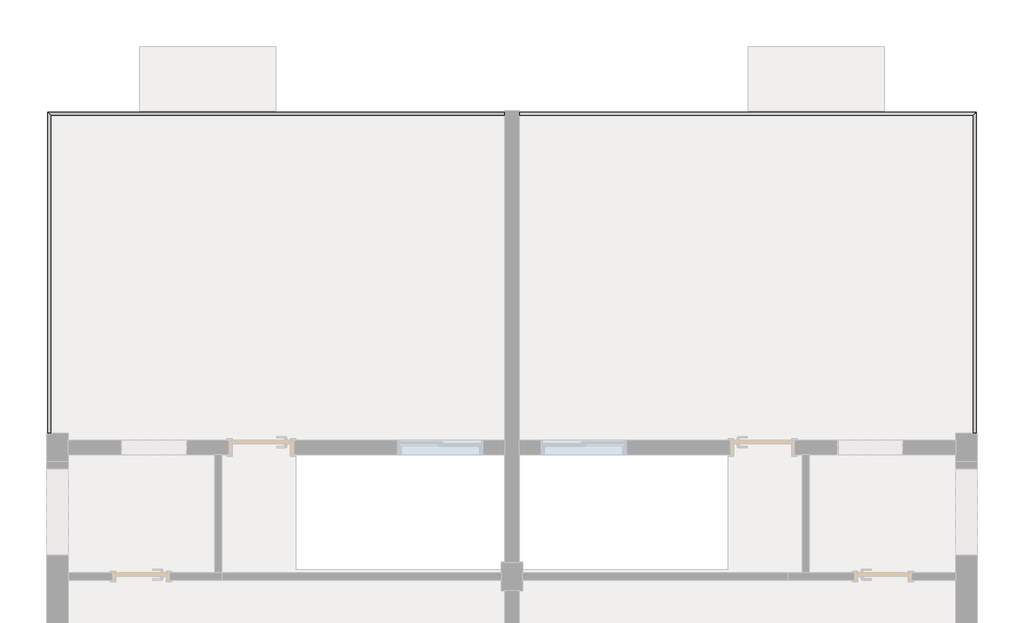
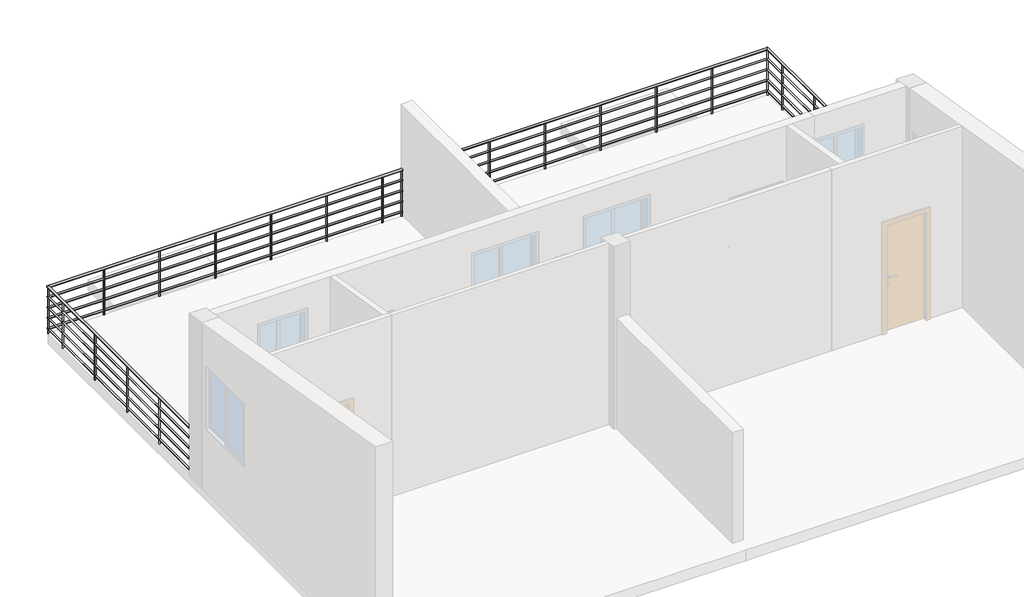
# One storey, part 2 of 2: 2 railings.
"""IFC4 building model written with IfcOpenShell, lengths in millimetres."""

from ifc_helpers import new_model, si_unit, point, frame, frame_2d, origin, place, context, project, spatial, circle_curve, ellipse_curve, trimmed, segment, composite_curve, outline, extrude, element, save
from ifc_brep_helpers import plane_surface, cylinder_surface, advanced_brep

model = new_model("IFC4")

# Units and contexts
model_context = context("Model", 3, world=origin())
ifc_project = project(units=[si_unit("LENGTHUNIT", "METRE", prefix="MILLI")], contexts=[model_context])

# Site, building, storey
site = spatial("IfcSite", under=ifc_project)
building = spatial("IfcBuilding", under=site)
storey = spatial("IfcBuildingStorey", under=building, Name="标高 3", Elevation=6000.0)

# Railings
placement = place(None, origin())
element("IfcRailing", 1, ObjectType="900mm 圆管", at=placement, inside=storey, context=model_context, shape_type="SolidModel", body=[
    advanced_brep(
    [(-8279.5311174, 830.4705333, 6880.0), (-8319.5311174, 830.4705333, 6880.0), (-8279.5311174, 5270.4705333, 6880.0), (-8319.5311174, 5310.4705333, 6880.0), (-1939.5311174, 5270.4705333, 6880.0), (-1939.5311174, 5310.4705333, 6880.0)],
    [
        (0, 1, circle_curve(frame((-8299.5311174, 830.4705333, 6880.0), z_axis=(0.0, -1.0, 0.0), x_axis=(-1.0, 0.0, 0.0)), 20.0)),
        (1, 0, circle_curve(frame((-8299.5311174, 830.4705333, 6880.0), z_axis=(0.0, -1.0, 0.0), x_axis=(-1.0, 0.0, 0.0)), 20.0)),
        (0, 2),
        (2, 3, ellipse_curve(frame((-8299.5311174, 5290.4705333, 6880.0), z_axis=(-0.7071067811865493, -0.7071067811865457, 0.0), x_axis=(0.7071067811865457, -0.7071067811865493, 0.0)), 28.2842712, 20.0)),
        (3, 1),
        (3, 2, ellipse_curve(frame((-8299.5311174, 5290.4705333, 6880.0), z_axis=(-0.7071067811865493, -0.7071067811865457, 0.0), x_axis=(0.7071067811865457, -0.7071067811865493, 0.0)), 28.2842712, 20.0)),
        (4, 5, circle_curve(frame((-1939.5311174, 5290.4705333, 6880.0), z_axis=(1.0, 0.0, 0.0), x_axis=(0.0, 1.0, 0.0)), 20.0)),
        (5, 4, circle_curve(frame((-1939.5311174, 5290.4705333, 6880.0), z_axis=(1.0, 0.0, 0.0), x_axis=(0.0, 1.0, 0.0)), 20.0)),
        (2, 4),
        (5, 3),
    ],
    [
        plane_surface(frame((-8299.5311174, 830.4705333, 6900.0), z_axis=(0.0, -1.0, 0.0), x_axis=(0.0, 0.0, 1.0))),
        cylinder_surface(frame((-8299.5311174, 830.4705333, 6880.0), z_axis=(0.0, -1.0, 0.0), x_axis=(-1.0, 0.0, 0.0)), 20.0),
        plane_surface(frame((-1939.5311174, 5290.4705333, 6900.0), z_axis=(1.0, 0.0, 0.0), x_axis=(0.0, 1.0, 0.0))),
        cylinder_surface(frame((-8299.5311174, 5290.4705333, 6880.0), z_axis=(-1.0, 0.0, 0.0), x_axis=(0.0, 1.0, 0.0)), 20.0),
    ],
    [
        (0, [[1, 2]]),
        (1, [[-1, 3, 4, 5]]),
        (1, [[-2, -5, 6, -3]]),
        (2, [[7, 8]]),
        (3, [[-4, 9, -8, 10]]),
        (3, [[-6, -10, -7, -9]]),
    ],
),
    advanced_brep(
    [(-8314.5311174, 830.4705333, 6685.0), (-8284.5311174, 830.4705333, 6685.0), (-8314.5311174, 5305.4705333, 6685.0), (-8284.5311174, 5275.4705333, 6685.0), (-1939.5311174, 5305.4705333, 6685.0), (-1939.5311174, 5275.4705333, 6685.0)],
    [
        (0, 1, circle_curve(frame((-8299.5311174, 830.4705333, 6685.0), z_axis=(0.0, -1.0, 0.0), x_axis=(1.0, 0.0, 0.0)), 15.0)),
        (1, 0, circle_curve(frame((-8299.5311174, 830.4705333, 6685.0), z_axis=(0.0, -1.0, 0.0), x_axis=(1.0, 0.0, 0.0)), 15.0)),
        (0, 2),
        (2, 3, ellipse_curve(frame((-8299.5311174, 5290.4705333, 6685.0), z_axis=(-0.7071067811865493, -0.7071067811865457, 0.0), x_axis=(0.7071067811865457, -0.7071067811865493, 0.0)), 21.2132034, 15.0)),
        (3, 1),
        (3, 2, ellipse_curve(frame((-8299.5311174, 5290.4705333, 6685.0), z_axis=(-0.7071067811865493, -0.7071067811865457, 0.0), x_axis=(0.7071067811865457, -0.7071067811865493, 0.0)), 21.2132034, 15.0)),
        (4, 5, circle_curve(frame((-1939.5311174, 5290.4705333, 6685.0), z_axis=(1.0, 0.0, 0.0), x_axis=(0.0, -1.0, 0.0)), 15.0)),
        (5, 4, circle_curve(frame((-1939.5311174, 5290.4705333, 6685.0), z_axis=(1.0, 0.0, 0.0), x_axis=(0.0, -1.0, 0.0)), 15.0)),
        (2, 4),
        (5, 3),
    ],
    [
        plane_surface(frame((-8299.5311174, 830.4705333, 6700.0), z_axis=(0.0, -1.0, 0.0), x_axis=(0.0, 0.0, 1.0))),
        cylinder_surface(frame((-8299.5311174, 830.4705333, 6685.0), z_axis=(0.0, -1.0, 0.0), x_axis=(1.0, 0.0, 0.0)), 15.0),
        plane_surface(frame((-1939.5311174, 5290.4705333, 6700.0), z_axis=(1.0, 0.0, 0.0), x_axis=(0.0, 1.0, 0.0))),
        cylinder_surface(frame((-8299.5311174, 5290.4705333, 6685.0), z_axis=(-1.0, 0.0, 0.0), x_axis=(0.0, -1.0, 0.0)), 15.0),
    ],
    [
        (0, [[1, 2]]),
        (1, [[-1, 3, 4, 5]]),
        (1, [[-2, -5, 6, -3]]),
        (2, [[7, 8]]),
        (3, [[-4, 9, -8, 10]]),
        (3, [[-6, -10, -7, -9]]),
    ],
),
    advanced_brep(
    [(-8314.5311174, 830.4705333, 6485.0), (-8284.5311174, 830.4705333, 6485.0), (-8314.5311174, 5305.4705333, 6485.0), (-8284.5311174, 5275.4705333, 6485.0), (-1939.5311174, 5305.4705333, 6485.0), (-1939.5311174, 5275.4705333, 6485.0)],
    [
        (0, 1, circle_curve(frame((-8299.5311174, 830.4705333, 6485.0), z_axis=(0.0, -1.0, 0.0), x_axis=(1.0, 0.0, 0.0)), 15.0)),
        (1, 0, circle_curve(frame((-8299.5311174, 830.4705333, 6485.0), z_axis=(0.0, -1.0, 0.0), x_axis=(1.0, 0.0, 0.0)), 15.0)),
        (0, 2),
        (2, 3, ellipse_curve(frame((-8299.5311174, 5290.4705333, 6485.0), z_axis=(-0.7071067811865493, -0.7071067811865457, 0.0), x_axis=(0.7071067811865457, -0.7071067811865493, 0.0)), 21.2132034, 15.0)),
        (3, 1),
        (3, 2, ellipse_curve(frame((-8299.5311174, 5290.4705333, 6485.0), z_axis=(-0.7071067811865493, -0.7071067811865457, 0.0), x_axis=(0.7071067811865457, -0.7071067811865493, 0.0)), 21.2132034, 15.0)),
        (4, 5, circle_curve(frame((-1939.5311174, 5290.4705333, 6485.0), z_axis=(1.0, 0.0, 0.0), x_axis=(0.0, -1.0, 0.0)), 15.0)),
        (5, 4, circle_curve(frame((-1939.5311174, 5290.4705333, 6485.0), z_axis=(1.0, 0.0, 0.0), x_axis=(0.0, -1.0, 0.0)), 15.0)),
        (2, 4),
        (5, 3),
    ],
    [
        plane_surface(frame((-8299.5311174, 830.4705333, 6500.0), z_axis=(0.0, -1.0, 0.0), x_axis=(0.0, 0.0, 1.0))),
        cylinder_surface(frame((-8299.5311174, 830.4705333, 6485.0), z_axis=(0.0, -1.0, 0.0), x_axis=(1.0, 0.0, 0.0)), 15.0),
        plane_surface(frame((-1939.5311174, 5290.4705333, 6500.0), z_axis=(1.0, 0.0, 0.0), x_axis=(0.0, 1.0, 0.0))),
        cylinder_surface(frame((-8299.5311174, 5290.4705333, 6485.0), z_axis=(-1.0, 0.0, 0.0), x_axis=(0.0, -1.0, 0.0)), 15.0),
    ],
    [
        (0, [[1, 2]]),
        (1, [[-1, 3, 4, 5]]),
        (1, [[-2, -5, 6, -3]]),
        (2, [[7, 8]]),
        (3, [[-4, 9, -8, 10]]),
        (3, [[-6, -10, -7, -9]]),
    ],
),
    advanced_brep(
    [(-8314.5311174, 830.4705333, 6285.0), (-8284.5311174, 830.4705333, 6285.0), (-8314.5311174, 5305.4705333, 6285.0), (-8284.5311174, 5275.4705333, 6285.0), (-1939.5311174, 5305.4705333, 6285.0), (-1939.5311174, 5275.4705333, 6285.0)],
    [
        (0, 1, circle_curve(frame((-8299.5311174, 830.4705333, 6285.0), z_axis=(0.0, -1.0, 0.0), x_axis=(1.0, 0.0, 0.0)), 15.0)),
        (1, 0, circle_curve(frame((-8299.5311174, 830.4705333, 6285.0), z_axis=(0.0, -1.0, 0.0), x_axis=(1.0, 0.0, 0.0)), 15.0)),
        (0, 2),
        (2, 3, ellipse_curve(frame((-8299.5311174, 5290.4705333, 6285.0), z_axis=(-0.7071067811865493, -0.7071067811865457, 0.0), x_axis=(0.7071067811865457, -0.7071067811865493, 0.0)), 21.2132034, 15.0)),
        (3, 1),
        (3, 2, ellipse_curve(frame((-8299.5311174, 5290.4705333, 6285.0), z_axis=(-0.7071067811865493, -0.7071067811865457, 0.0), x_axis=(0.7071067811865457, -0.7071067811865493, 0.0)), 21.2132034, 15.0)),
        (4, 5, circle_curve(frame((-1939.5311174, 5290.4705333, 6285.0), z_axis=(1.0, 0.0, 0.0), x_axis=(0.0, -1.0, 0.0)), 15.0)),
        (5, 4, circle_curve(frame((-1939.5311174, 5290.4705333, 6285.0), z_axis=(1.0, 0.0, 0.0), x_axis=(0.0, -1.0, 0.0)), 15.0)),
        (2, 4),
        (5, 3),
    ],
    [
        plane_surface(frame((-8299.5311174, 830.4705333, 6300.0), z_axis=(0.0, -1.0, 0.0), x_axis=(0.0, 0.0, 1.0))),
        cylinder_surface(frame((-8299.5311174, 830.4705333, 6285.0), z_axis=(0.0, -1.0, 0.0), x_axis=(1.0, 0.0, 0.0)), 15.0),
        plane_surface(frame((-1939.5311174, 5290.4705333, 6300.0), z_axis=(1.0, 0.0, 0.0), x_axis=(0.0, 1.0, 0.0))),
        cylinder_surface(frame((-8299.5311174, 5290.4705333, 6285.0), z_axis=(-1.0, 0.0, 0.0), x_axis=(0.0, -1.0, 0.0)), 15.0),
    ],
    [
        (0, [[1, 2]]),
        (1, [[-1, 3, 4, 5]]),
        (1, [[-2, -5, 6, -3]]),
        (2, [[7, 8]]),
        (3, [[-4, 9, -8, 10]]),
        (3, [[-6, -10, -7, -9]]),
    ],
),
    advanced_brep(
    [(-8314.5311174, 830.4705333, 6085.0), (-8284.5311174, 830.4705333, 6085.0), (-8314.5311174, 5305.4705333, 6085.0), (-8284.5311174, 5275.4705333, 6085.0), (-1939.5311174, 5305.4705333, 6085.0), (-1939.5311174, 5275.4705333, 6085.0)],
    [
        (0, 1, circle_curve(frame((-8299.5311174, 830.4705333, 6085.0), z_axis=(0.0, -1.0, 0.0), x_axis=(1.0, 0.0, 0.0)), 15.0)),
        (1, 0, circle_curve(frame((-8299.5311174, 830.4705333, 6085.0), z_axis=(0.0, -1.0, 0.0), x_axis=(1.0, 0.0, 0.0)), 15.0)),
        (0, 2),
        (2, 3, ellipse_curve(frame((-8299.5311174, 5290.4705333, 6085.0), z_axis=(-0.7071067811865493, -0.7071067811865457, 0.0), x_axis=(0.7071067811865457, -0.7071067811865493, 0.0)), 21.2132034, 15.0)),
        (3, 1),
        (3, 2, ellipse_curve(frame((-8299.5311174, 5290.4705333, 6085.0), z_axis=(-0.7071067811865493, -0.7071067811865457, 0.0), x_axis=(0.7071067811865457, -0.7071067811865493, 0.0)), 21.2132034, 15.0)),
        (4, 5, circle_curve(frame((-1939.5311174, 5290.4705333, 6085.0), z_axis=(1.0, 0.0, 0.0), x_axis=(0.0, -1.0, 0.0)), 15.0)),
        (5, 4, circle_curve(frame((-1939.5311174, 5290.4705333, 6085.0), z_axis=(1.0, 0.0, 0.0), x_axis=(0.0, -1.0, 0.0)), 15.0)),
        (2, 4),
        (5, 3),
    ],
    [
        plane_surface(frame((-8299.5311174, 830.4705333, 6100.0), z_axis=(0.0, -1.0, 0.0), x_axis=(0.0, 0.0, 1.0))),
        cylinder_surface(frame((-8299.5311174, 830.4705333, 6085.0), z_axis=(0.0, -1.0, 0.0), x_axis=(1.0, 0.0, 0.0)), 15.0),
        plane_surface(frame((-1939.5311174, 5290.4705333, 6100.0), z_axis=(1.0, 0.0, 0.0), x_axis=(0.0, 1.0, 0.0))),
        cylinder_surface(frame((-8299.5311174, 5290.4705333, 6085.0), z_axis=(-1.0, 0.0, 0.0), x_axis=(0.0, -1.0, 0.0)), 15.0),
    ],
    [
        (0, [[1, 2]]),
        (1, [[-1, 3, 4, 5]]),
        (1, [[-2, -5, 6, -3]]),
        (2, [[7, 8]]),
        (3, [[-4, 9, -8, 10]]),
        (3, [[-6, -10, -7, -9]]),
    ],
),
    extrude(outline(composite_curve([segment(trimmed(circle_curve(frame_2d((-2299.5311174, 5290.4705333)), 12.5), [point((-2299.5311174, 5302.9705333))], [point((-2299.5311174, 5277.9705333))], False, "CARTESIAN"), True, "CONTINUOUS"), segment(trimmed(circle_curve(frame_2d((-2299.5311174, 5290.4705333)), 12.5), [point((-2299.5311174, 5277.9705333))], [point((-2299.5311174, 5302.9705333))], False, "CARTESIAN"), True, "CONTINUOUS")], self_intersect=False)), frame((0.0, 0.0, 6000.0), z_axis=(0.0, 0.0, 1.0), x_axis=(1.0, 0.0, 0.0)), (0.0, 0.0, 1.0), 860.0),
    extrude(outline(composite_curve([segment(trimmed(circle_curve(frame_2d((-3299.5311174, 5290.4705333)), 12.5), [point((-3299.5311174, 5302.9705333))], [point((-3299.5311174, 5277.9705333))], False, "CARTESIAN"), True, "CONTINUOUS"), segment(trimmed(circle_curve(frame_2d((-3299.5311174, 5290.4705333)), 12.5), [point((-3299.5311174, 5277.9705333))], [point((-3299.5311174, 5302.9705333))], False, "CARTESIAN"), True, "CONTINUOUS")], self_intersect=False)), frame((0.0, 0.0, 6000.0), z_axis=(0.0, 0.0, 1.0), x_axis=(1.0, 0.0, 0.0)), (0.0, 0.0, 1.0), 860.0),
    extrude(outline(composite_curve([segment(trimmed(circle_curve(frame_2d((-4299.5311174, 5290.4705333)), 12.5), [point((-4299.5311174, 5302.9705333))], [point((-4299.5311174, 5277.9705333))], False, "CARTESIAN"), True, "CONTINUOUS"), segment(trimmed(circle_curve(frame_2d((-4299.5311174, 5290.4705333)), 12.5), [point((-4299.5311174, 5277.9705333))], [point((-4299.5311174, 5302.9705333))], False, "CARTESIAN"), True, "CONTINUOUS")], self_intersect=False)), frame((0.0, 0.0, 6000.0), z_axis=(0.0, 0.0, 1.0), x_axis=(1.0, 0.0, 0.0)), (0.0, 0.0, 1.0), 860.0),
    extrude(outline(composite_curve([segment(trimmed(circle_curve(frame_2d((-5299.5311174, 5290.4705333)), 12.5), [point((-5299.5311174, 5302.9705333))], [point((-5299.5311174, 5277.9705333))], False, "CARTESIAN"), True, "CONTINUOUS"), segment(trimmed(circle_curve(frame_2d((-5299.5311174, 5290.4705333)), 12.5), [point((-5299.5311174, 5277.9705333))], [point((-5299.5311174, 5302.9705333))], False, "CARTESIAN"), True, "CONTINUOUS")], self_intersect=False)), frame((0.0, 0.0, 6000.0), z_axis=(0.0, 0.0, 1.0), x_axis=(1.0, 0.0, 0.0)), (0.0, 0.0, 1.0), 860.0),
    extrude(outline(composite_curve([segment(trimmed(circle_curve(frame_2d((-6299.5311174, 5290.4705333)), 12.5), [point((-6299.5311174, 5302.9705333))], [point((-6299.5311174, 5277.9705333))], False, "CARTESIAN"), True, "CONTINUOUS"), segment(trimmed(circle_curve(frame_2d((-6299.5311174, 5290.4705333)), 12.5), [point((-6299.5311174, 5277.9705333))], [point((-6299.5311174, 5302.9705333))], False, "CARTESIAN"), True, "CONTINUOUS")], self_intersect=False)), frame((0.0, 0.0, 6000.0), z_axis=(0.0, 0.0, 1.0), x_axis=(1.0, 0.0, 0.0)), (0.0, 0.0, 1.0), 860.0),
    extrude(outline(composite_curve([segment(trimmed(circle_curve(frame_2d((-7299.5311174, 5290.4705333)), 12.5), [point((-7299.5311174, 5302.9705333))], [point((-7299.5311174, 5277.9705333))], False, "CARTESIAN"), True, "CONTINUOUS"), segment(trimmed(circle_curve(frame_2d((-7299.5311174, 5290.4705333)), 12.5), [point((-7299.5311174, 5277.9705333))], [point((-7299.5311174, 5302.9705333))], False, "CARTESIAN"), True, "CONTINUOUS")], self_intersect=False)), frame((0.0, 0.0, 6000.0), z_axis=(0.0, 0.0, 1.0), x_axis=(1.0, 0.0, 0.0)), (0.0, 0.0, 1.0), 860.0),
    extrude(outline(composite_curve([segment(trimmed(circle_curve(frame_2d((-8299.5311174, 4830.4705333)), 12.5), [point((-8312.0311174, 4830.4705333))], [point((-8287.0311174, 4830.4705333))], False, "CARTESIAN"), True, "CONTINUOUS"), segment(trimmed(circle_curve(frame_2d((-8299.5311174, 4830.4705333)), 12.5), [point((-8287.0311174, 4830.4705333))], [point((-8312.0311174, 4830.4705333))], False, "CARTESIAN"), True, "CONTINUOUS")], self_intersect=False)), frame((0.0, 0.0, 6000.0), z_axis=(0.0, 0.0, 1.0), x_axis=(1.0, 0.0, 0.0)), (0.0, 0.0, 1.0), 860.0),
    extrude(outline(composite_curve([segment(trimmed(circle_curve(frame_2d((-8299.5311174, 3830.4705333)), 12.5), [point((-8312.0311174, 3830.4705333))], [point((-8287.0311174, 3830.4705333))], False, "CARTESIAN"), True, "CONTINUOUS"), segment(trimmed(circle_curve(frame_2d((-8299.5311174, 3830.4705333)), 12.5), [point((-8287.0311174, 3830.4705333))], [point((-8312.0311174, 3830.4705333))], False, "CARTESIAN"), True, "CONTINUOUS")], self_intersect=False)), frame((0.0, 0.0, 6000.0), z_axis=(0.0, 0.0, 1.0), x_axis=(1.0, 0.0, 0.0)), (0.0, 0.0, 1.0), 860.0),
    extrude(outline(composite_curve([segment(trimmed(circle_curve(frame_2d((-8299.5311174, 2830.4705333)), 12.5), [point((-8312.0311174, 2830.4705333))], [point((-8287.0311174, 2830.4705333))], False, "CARTESIAN"), True, "CONTINUOUS"), segment(trimmed(circle_curve(frame_2d((-8299.5311174, 2830.4705333)), 12.5), [point((-8287.0311174, 2830.4705333))], [point((-8312.0311174, 2830.4705333))], False, "CARTESIAN"), True, "CONTINUOUS")], self_intersect=False)), frame((0.0, 0.0, 6000.0), z_axis=(0.0, 0.0, 1.0), x_axis=(1.0, 0.0, 0.0)), (0.0, 0.0, 1.0), 860.0),
    extrude(outline(composite_curve([segment(trimmed(circle_curve(frame_2d((-8299.5311174, 1830.4705333)), 12.5), [point((-8312.0311174, 1830.4705333))], [point((-8287.0311174, 1830.4705333))], False, "CARTESIAN"), True, "CONTINUOUS"), segment(trimmed(circle_curve(frame_2d((-8299.5311174, 1830.4705333)), 12.5), [point((-8287.0311174, 1830.4705333))], [point((-8312.0311174, 1830.4705333))], False, "CARTESIAN"), True, "CONTINUOUS")], self_intersect=False)), frame((0.0, 0.0, 6000.0), z_axis=(0.0, 0.0, 1.0), x_axis=(1.0, 0.0, 0.0)), (0.0, 0.0, 1.0), 860.0),
    extrude(outline(composite_curve([segment(trimmed(circle_curve(frame_2d((-8299.5311174, 5290.4705333)), 12.5), [point((-8312.0311174, 5290.4705333))], [point((-8287.0311174, 5290.4705333))], False, "CARTESIAN"), True, "CONTINUOUS"), segment(trimmed(circle_curve(frame_2d((-8299.5311174, 5290.4705333)), 12.5), [point((-8287.0311174, 5290.4705333))], [point((-8312.0311174, 5290.4705333))], False, "CARTESIAN"), True, "CONTINUOUS")], self_intersect=False)), frame((0.0, 0.0, 6000.0), z_axis=(0.0, 0.0, 1.0), x_axis=(1.0, 0.0, 0.0)), (0.0, 0.0, 1.0), 860.0),
    extrude(outline(composite_curve([segment(trimmed(circle_curve(frame_2d((-1952.0311174, 5290.4705333)), 12.5), [point((-1952.0311174, 5302.9705333))], [point((-1952.0311174, 5277.9705333))], False, "CARTESIAN"), True, "CONTINUOUS"), segment(trimmed(circle_curve(frame_2d((-1952.0311174, 5290.4705333)), 12.5), [point((-1952.0311174, 5277.9705333))], [point((-1952.0311174, 5302.9705333))], False, "CARTESIAN"), True, "CONTINUOUS")], self_intersect=False)), frame((0.0, 0.0, 6000.0), z_axis=(0.0, 0.0, 1.0), x_axis=(1.0, 0.0, 0.0)), (0.0, 0.0, 1.0), 860.0),
    extrude(outline(composite_curve([segment(trimmed(circle_curve(frame_2d((-8299.5311174, 842.9705333)), 12.5), [point((-8312.0311174, 842.9705333))], [point((-8287.0311174, 842.9705333))], False, "CARTESIAN"), True, "CONTINUOUS"), segment(trimmed(circle_curve(frame_2d((-8299.5311174, 842.9705333)), 12.5), [point((-8287.0311174, 842.9705333))], [point((-8312.0311174, 842.9705333))], False, "CARTESIAN"), True, "CONTINUOUS")], self_intersect=False)), frame((0.0, 0.0, 6000.0), z_axis=(0.0, 0.0, 1.0), x_axis=(1.0, 0.0, 0.0)), (0.0, 0.0, 1.0), 860.0),
])
element("IfcRailing", 2, ObjectType="900mm 圆管", at=placement, inside=storey, context=model_context, shape_type="SolidModel", body=[
    advanced_brep(
    [(4640.4688826, 830.4705333, 6880.0), (4600.4688826, 830.4705333, 6880.0), (4640.4688826, 5310.4705333, 6880.0), (4600.4688826, 5270.4705333, 6880.0), (-1739.5311174, 5310.4705333, 6880.0), (-1739.5311174, 5270.4705333, 6880.0)],
    [
        (0, 1, circle_curve(frame((4620.4688826, 830.4705333, 6880.0), z_axis=(0.0, -1.0, 0.0), x_axis=(-1.0, 0.0, 0.0)), 20.0)),
        (1, 0, circle_curve(frame((4620.4688826, 830.4705333, 6880.0), z_axis=(0.0, -1.0, 0.0), x_axis=(-1.0, 0.0, 0.0)), 20.0)),
        (0, 2),
        (2, 3, ellipse_curve(frame((4620.4688826, 5290.4705333, 6880.0), z_axis=(0.7071067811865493, -0.7071067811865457, 0.0), x_axis=(-0.7071067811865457, -0.7071067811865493, 0.0)), 28.2842712, 20.0)),
        (3, 1),
        (3, 2, ellipse_curve(frame((4620.4688826, 5290.4705333, 6880.0), z_axis=(0.7071067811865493, -0.7071067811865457, 0.0), x_axis=(-0.7071067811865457, -0.7071067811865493, 0.0)), 28.2842712, 20.0)),
        (4, 5, circle_curve(frame((-1739.5311174, 5290.4705333, 6880.0), z_axis=(-1.0, 0.0, 0.0), x_axis=(0.0, -1.0, 0.0)), 20.0)),
        (5, 4, circle_curve(frame((-1739.5311174, 5290.4705333, 6880.0), z_axis=(-1.0, 0.0, 0.0), x_axis=(0.0, -1.0, 0.0)), 20.0)),
        (2, 4),
        (5, 3),
    ],
    [
        plane_surface(frame((4620.4688826, 830.4705333, 6900.0), z_axis=(0.0, -1.0, 0.0), x_axis=(0.0, 0.0, 1.0))),
        cylinder_surface(frame((4620.4688826, 830.4705333, 6880.0), z_axis=(0.0, -1.0, 0.0), x_axis=(-1.0, 0.0, 0.0)), 20.0),
        plane_surface(frame((-1739.5311174, 5290.4705333, 6900.0), z_axis=(-1.0, 0.0, 0.0), x_axis=(0.0, -1.0, 0.0))),
        cylinder_surface(frame((4620.4688826, 5290.4705333, 6880.0), z_axis=(1.0, 0.0, 0.0), x_axis=(0.0, -1.0, 0.0)), 20.0),
    ],
    [
        (0, [[1, 2]]),
        (1, [[-1, 3, 4, 5]]),
        (1, [[-2, -5, 6, -3]]),
        (2, [[7, 8]]),
        (3, [[-4, 9, -8, 10]]),
        (3, [[-6, -10, -7, -9]]),
    ],
),
    advanced_brep(
    [(4635.4688826, 830.4705333, 6685.0), (4605.4688826, 830.4705333, 6685.0), (4605.4688826, 5275.4705333, 6685.0), (4635.4688826, 5305.4705333, 6685.0), (-1739.5311174, 5305.4705333, 6685.0), (-1739.5311174, 5275.4705333, 6685.0)],
    [
        (0, 1, circle_curve(frame((4620.4688826, 830.4705333, 6685.0), z_axis=(0.0, -1.0, 0.0), x_axis=(-1.0, 0.0, 0.0)), 15.0)),
        (1, 0, circle_curve(frame((4620.4688826, 830.4705333, 6685.0), z_axis=(0.0, -1.0, 0.0), x_axis=(-1.0, 0.0, 0.0)), 15.0)),
        (1, 2),
        (2, 3, ellipse_curve(frame((4620.4688826, 5290.4705333, 6685.0), z_axis=(0.7071067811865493, -0.7071067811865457, 0.0), x_axis=(-0.7071067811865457, -0.7071067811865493, 0.0)), 21.2132034, 15.0)),
        (3, 0),
        (3, 2, ellipse_curve(frame((4620.4688826, 5290.4705333, 6685.0), z_axis=(0.7071067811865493, -0.7071067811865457, 0.0), x_axis=(-0.7071067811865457, -0.7071067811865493, 0.0)), 21.2132034, 15.0)),
        (4, 5, circle_curve(frame((-1739.5311174, 5290.4705333, 6685.0), z_axis=(-1.0, 0.0, 0.0), x_axis=(0.0, -1.0, 0.0)), 15.0)),
        (5, 4, circle_curve(frame((-1739.5311174, 5290.4705333, 6685.0), z_axis=(-1.0, 0.0, 0.0), x_axis=(0.0, -1.0, 0.0)), 15.0)),
        (2, 5),
        (4, 3),
    ],
    [
        plane_surface(frame((4620.4688826, 830.4705333, 6700.0), z_axis=(0.0, -1.0, 0.0), x_axis=(0.0, 0.0, 1.0))),
        cylinder_surface(frame((4620.4688826, 830.4705333, 6685.0), z_axis=(0.0, -1.0, 0.0), x_axis=(-1.0, 0.0, 0.0)), 15.0),
        plane_surface(frame((-1739.5311174, 5290.4705333, 6700.0), z_axis=(-1.0, 0.0, 0.0), x_axis=(0.0, -1.0, 0.0))),
        cylinder_surface(frame((4620.4688826, 5290.4705333, 6685.0), z_axis=(1.0, 0.0, 0.0), x_axis=(0.0, -1.0, 0.0)), 15.0),
    ],
    [
        (0, [[1, 2]]),
        (1, [[-2, 3, 4, 5]]),
        (1, [[-1, -5, 6, -3]]),
        (2, [[7, 8]]),
        (3, [[-4, 9, -7, 10]]),
        (3, [[-6, -10, -8, -9]]),
    ],
),
    advanced_brep(
    [(4635.4688826, 830.4705333, 6485.0), (4605.4688826, 830.4705333, 6485.0), (4605.4688826, 5275.4705333, 6485.0), (4635.4688826, 5305.4705333, 6485.0), (-1739.5311174, 5305.4705333, 6485.0), (-1739.5311174, 5275.4705333, 6485.0)],
    [
        (0, 1, circle_curve(frame((4620.4688826, 830.4705333, 6485.0), z_axis=(0.0, -1.0, 0.0), x_axis=(-1.0, 0.0, 0.0)), 15.0)),
        (1, 0, circle_curve(frame((4620.4688826, 830.4705333, 6485.0), z_axis=(0.0, -1.0, 0.0), x_axis=(-1.0, 0.0, 0.0)), 15.0)),
        (1, 2),
        (2, 3, ellipse_curve(frame((4620.4688826, 5290.4705333, 6485.0), z_axis=(0.7071067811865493, -0.7071067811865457, 0.0), x_axis=(-0.7071067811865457, -0.7071067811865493, 0.0)), 21.2132034, 15.0)),
        (3, 0),
        (3, 2, ellipse_curve(frame((4620.4688826, 5290.4705333, 6485.0), z_axis=(0.7071067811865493, -0.7071067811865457, 0.0), x_axis=(-0.7071067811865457, -0.7071067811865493, 0.0)), 21.2132034, 15.0)),
        (4, 5, circle_curve(frame((-1739.5311174, 5290.4705333, 6485.0), z_axis=(-1.0, 0.0, 0.0), x_axis=(0.0, -1.0, 0.0)), 15.0)),
        (5, 4, circle_curve(frame((-1739.5311174, 5290.4705333, 6485.0), z_axis=(-1.0, 0.0, 0.0), x_axis=(0.0, -1.0, 0.0)), 15.0)),
        (2, 5),
        (4, 3),
    ],
    [
        plane_surface(frame((4620.4688826, 830.4705333, 6500.0), z_axis=(0.0, -1.0, 0.0), x_axis=(0.0, 0.0, 1.0))),
        cylinder_surface(frame((4620.4688826, 830.4705333, 6485.0), z_axis=(0.0, -1.0, 0.0), x_axis=(-1.0, 0.0, 0.0)), 15.0),
        plane_surface(frame((-1739.5311174, 5290.4705333, 6500.0), z_axis=(-1.0, 0.0, 0.0), x_axis=(0.0, -1.0, 0.0))),
        cylinder_surface(frame((4620.4688826, 5290.4705333, 6485.0), z_axis=(1.0, 0.0, 0.0), x_axis=(0.0, -1.0, 0.0)), 15.0),
    ],
    [
        (0, [[1, 2]]),
        (1, [[-2, 3, 4, 5]]),
        (1, [[-1, -5, 6, -3]]),
        (2, [[7, 8]]),
        (3, [[-4, 9, -7, 10]]),
        (3, [[-6, -10, -8, -9]]),
    ],
),
    advanced_brep(
    [(4635.4688826, 830.4705333, 6285.0), (4605.4688826, 830.4705333, 6285.0), (4605.4688826, 5275.4705333, 6285.0), (4635.4688826, 5305.4705333, 6285.0), (-1739.5311174, 5305.4705333, 6285.0), (-1739.5311174, 5275.4705333, 6285.0)],
    [
        (0, 1, circle_curve(frame((4620.4688826, 830.4705333, 6285.0), z_axis=(0.0, -1.0, 0.0), x_axis=(-1.0, 0.0, 0.0)), 15.0)),
        (1, 0, circle_curve(frame((4620.4688826, 830.4705333, 6285.0), z_axis=(0.0, -1.0, 0.0), x_axis=(-1.0, 0.0, 0.0)), 15.0)),
        (1, 2),
        (2, 3, ellipse_curve(frame((4620.4688826, 5290.4705333, 6285.0), z_axis=(0.7071067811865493, -0.7071067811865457, 0.0), x_axis=(-0.7071067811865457, -0.7071067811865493, 0.0)), 21.2132034, 15.0)),
        (3, 0),
        (3, 2, ellipse_curve(frame((4620.4688826, 5290.4705333, 6285.0), z_axis=(0.7071067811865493, -0.7071067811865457, 0.0), x_axis=(-0.7071067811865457, -0.7071067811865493, 0.0)), 21.2132034, 15.0)),
        (4, 5, circle_curve(frame((-1739.5311174, 5290.4705333, 6285.0), z_axis=(-1.0, 0.0, 0.0), x_axis=(0.0, -1.0, 0.0)), 15.0)),
        (5, 4, circle_curve(frame((-1739.5311174, 5290.4705333, 6285.0), z_axis=(-1.0, 0.0, 0.0), x_axis=(0.0, -1.0, 0.0)), 15.0)),
        (2, 5),
        (4, 3),
    ],
    [
        plane_surface(frame((4620.4688826, 830.4705333, 6300.0), z_axis=(0.0, -1.0, 0.0), x_axis=(0.0, 0.0, 1.0))),
        cylinder_surface(frame((4620.4688826, 830.4705333, 6285.0), z_axis=(0.0, -1.0, 0.0), x_axis=(-1.0, 0.0, 0.0)), 15.0),
        plane_surface(frame((-1739.5311174, 5290.4705333, 6300.0), z_axis=(-1.0, 0.0, 0.0), x_axis=(0.0, -1.0, 0.0))),
        cylinder_surface(frame((4620.4688826, 5290.4705333, 6285.0), z_axis=(1.0, 0.0, 0.0), x_axis=(0.0, -1.0, 0.0)), 15.0),
    ],
    [
        (0, [[1, 2]]),
        (1, [[-2, 3, 4, 5]]),
        (1, [[-1, -5, 6, -3]]),
        (2, [[7, 8]]),
        (3, [[-4, 9, -7, 10]]),
        (3, [[-6, -10, -8, -9]]),
    ],
),
    advanced_brep(
    [(4635.4688826, 830.4705333, 6085.0), (4605.4688826, 830.4705333, 6085.0), (4605.4688826, 5275.4705333, 6085.0), (4635.4688826, 5305.4705333, 6085.0), (-1739.5311174, 5305.4705333, 6085.0), (-1739.5311174, 5275.4705333, 6085.0)],
    [
        (0, 1, circle_curve(frame((4620.4688826, 830.4705333, 6085.0), z_axis=(0.0, -1.0, 0.0), x_axis=(-1.0, 0.0, 0.0)), 15.0)),
        (1, 0, circle_curve(frame((4620.4688826, 830.4705333, 6085.0), z_axis=(0.0, -1.0, 0.0), x_axis=(-1.0, 0.0, 0.0)), 15.0)),
        (1, 2),
        (2, 3, ellipse_curve(frame((4620.4688826, 5290.4705333, 6085.0), z_axis=(0.7071067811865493, -0.7071067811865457, 0.0), x_axis=(-0.7071067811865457, -0.7071067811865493, 0.0)), 21.2132034, 15.0)),
        (3, 0),
        (3, 2, ellipse_curve(frame((4620.4688826, 5290.4705333, 6085.0), z_axis=(0.7071067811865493, -0.7071067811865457, 0.0), x_axis=(-0.7071067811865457, -0.7071067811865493, 0.0)), 21.2132034, 15.0)),
        (4, 5, circle_curve(frame((-1739.5311174, 5290.4705333, 6085.0), z_axis=(-1.0, 0.0, 0.0), x_axis=(0.0, -1.0, 0.0)), 15.0)),
        (5, 4, circle_curve(frame((-1739.5311174, 5290.4705333, 6085.0), z_axis=(-1.0, 0.0, 0.0), x_axis=(0.0, -1.0, 0.0)), 15.0)),
        (2, 5),
        (4, 3),
    ],
    [
        plane_surface(frame((4620.4688826, 830.4705333, 6100.0), z_axis=(0.0, -1.0, 0.0), x_axis=(0.0, 0.0, 1.0))),
        cylinder_surface(frame((4620.4688826, 830.4705333, 6085.0), z_axis=(0.0, -1.0, 0.0), x_axis=(-1.0, 0.0, 0.0)), 15.0),
        plane_surface(frame((-1739.5311174, 5290.4705333, 6100.0), z_axis=(-1.0, 0.0, 0.0), x_axis=(0.0, -1.0, 0.0))),
        cylinder_surface(frame((4620.4688826, 5290.4705333, 6085.0), z_axis=(1.0, 0.0, 0.0), x_axis=(0.0, -1.0, 0.0)), 15.0),
    ],
    [
        (0, [[1, 2]]),
        (1, [[-2, 3, 4, 5]]),
        (1, [[-1, -5, 6, -3]]),
        (2, [[7, 8]]),
        (3, [[-4, 9, -7, 10]]),
        (3, [[-6, -10, -8, -9]]),
    ],
),
    extrude(outline(composite_curve([segment(trimmed(circle_curve(frame_2d((-1379.5311174, 5290.4705333)), 12.5), [point((-1379.5311174, 5302.9705333))], [point((-1379.5311174, 5277.9705333))], False, "CARTESIAN"), True, "CONTINUOUS"), segment(trimmed(circle_curve(frame_2d((-1379.5311174, 5290.4705333)), 12.5), [point((-1379.5311174, 5277.9705333))], [point((-1379.5311174, 5302.9705333))], False, "CARTESIAN"), True, "CONTINUOUS")], self_intersect=False)), frame((0.0, 0.0, 6000.0), z_axis=(0.0, 0.0, 1.0), x_axis=(1.0, 0.0, 0.0)), (0.0, 0.0, 1.0), 860.0),
    extrude(outline(composite_curve([segment(trimmed(circle_curve(frame_2d((-379.5311174, 5290.4705333)), 12.5), [point((-379.5311174, 5302.9705333))], [point((-379.5311174, 5277.9705333))], False, "CARTESIAN"), True, "CONTINUOUS"), segment(trimmed(circle_curve(frame_2d((-379.5311174, 5290.4705333)), 12.5), [point((-379.5311174, 5277.9705333))], [point((-379.5311174, 5302.9705333))], False, "CARTESIAN"), True, "CONTINUOUS")], self_intersect=False)), frame((0.0, 0.0, 6000.0), z_axis=(0.0, 0.0, 1.0), x_axis=(1.0, 0.0, 0.0)), (0.0, 0.0, 1.0), 860.0),
    extrude(outline(composite_curve([segment(trimmed(circle_curve(frame_2d((620.4688826, 5290.4705333)), 12.5), [point((620.4688826, 5302.9705333))], [point((620.4688826, 5277.9705333))], False, "CARTESIAN"), True, "CONTINUOUS"), segment(trimmed(circle_curve(frame_2d((620.4688826, 5290.4705333)), 12.5), [point((620.4688826, 5277.9705333))], [point((620.4688826, 5302.9705333))], False, "CARTESIAN"), True, "CONTINUOUS")], self_intersect=False)), frame((0.0, 0.0, 6000.0), z_axis=(0.0, 0.0, 1.0), x_axis=(1.0, 0.0, 0.0)), (0.0, 0.0, 1.0), 860.0),
    extrude(outline(composite_curve([segment(trimmed(circle_curve(frame_2d((1620.4688826, 5290.4705333)), 12.5), [point((1620.4688826, 5302.9705333))], [point((1620.4688826, 5277.9705333))], False, "CARTESIAN"), True, "CONTINUOUS"), segment(trimmed(circle_curve(frame_2d((1620.4688826, 5290.4705333)), 12.5), [point((1620.4688826, 5277.9705333))], [point((1620.4688826, 5302.9705333))], False, "CARTESIAN"), True, "CONTINUOUS")], self_intersect=False)), frame((0.0, 0.0, 6000.0), z_axis=(0.0, 0.0, 1.0), x_axis=(1.0, 0.0, 0.0)), (0.0, 0.0, 1.0), 860.0),
    extrude(outline(composite_curve([segment(trimmed(circle_curve(frame_2d((2620.4688826, 5290.4705333)), 12.5), [point((2620.4688826, 5302.9705333))], [point((2620.4688826, 5277.9705333))], False, "CARTESIAN"), True, "CONTINUOUS"), segment(trimmed(circle_curve(frame_2d((2620.4688826, 5290.4705333)), 12.5), [point((2620.4688826, 5277.9705333))], [point((2620.4688826, 5302.9705333))], False, "CARTESIAN"), True, "CONTINUOUS")], self_intersect=False)), frame((0.0, 0.0, 6000.0), z_axis=(0.0, 0.0, 1.0), x_axis=(1.0, 0.0, 0.0)), (0.0, 0.0, 1.0), 860.0),
    extrude(outline(composite_curve([segment(trimmed(circle_curve(frame_2d((3620.4688826, 5290.4705333)), 12.5), [point((3620.4688826, 5302.9705333))], [point((3620.4688826, 5277.9705333))], False, "CARTESIAN"), True, "CONTINUOUS"), segment(trimmed(circle_curve(frame_2d((3620.4688826, 5290.4705333)), 12.5), [point((3620.4688826, 5277.9705333))], [point((3620.4688826, 5302.9705333))], False, "CARTESIAN"), True, "CONTINUOUS")], self_intersect=False)), frame((0.0, 0.0, 6000.0), z_axis=(0.0, 0.0, 1.0), x_axis=(1.0, 0.0, 0.0)), (0.0, 0.0, 1.0), 860.0),
    extrude(outline(composite_curve([segment(trimmed(circle_curve(frame_2d((4620.4688826, 4830.4705333)), 12.5), [point((4632.9688826, 4830.4705333))], [point((4607.9688826, 4830.4705333))], False, "CARTESIAN"), True, "CONTINUOUS"), segment(trimmed(circle_curve(frame_2d((4620.4688826, 4830.4705333)), 12.5), [point((4607.9688826, 4830.4705333))], [point((4632.9688826, 4830.4705333))], False, "CARTESIAN"), True, "CONTINUOUS")], self_intersect=False)), frame((0.0, 0.0, 6000.0), z_axis=(0.0, 0.0, 1.0), x_axis=(1.0, 0.0, 0.0)), (0.0, 0.0, 1.0), 860.0),
    extrude(outline(composite_curve([segment(trimmed(circle_curve(frame_2d((4620.4688826, 3830.4705333)), 12.5), [point((4632.9688826, 3830.4705333))], [point((4607.9688826, 3830.4705333))], False, "CARTESIAN"), True, "CONTINUOUS"), segment(trimmed(circle_curve(frame_2d((4620.4688826, 3830.4705333)), 12.5), [point((4607.9688826, 3830.4705333))], [point((4632.9688826, 3830.4705333))], False, "CARTESIAN"), True, "CONTINUOUS")], self_intersect=False)), frame((0.0, 0.0, 6000.0), z_axis=(0.0, 0.0, 1.0), x_axis=(1.0, 0.0, 0.0)), (0.0, 0.0, 1.0), 860.0),
    extrude(outline(composite_curve([segment(trimmed(circle_curve(frame_2d((4620.4688826, 2830.4705333)), 12.5), [point((4632.9688826, 2830.4705333))], [point((4607.9688826, 2830.4705333))], False, "CARTESIAN"), True, "CONTINUOUS"), segment(trimmed(circle_curve(frame_2d((4620.4688826, 2830.4705333)), 12.5), [point((4607.9688826, 2830.4705333))], [point((4632.9688826, 2830.4705333))], False, "CARTESIAN"), True, "CONTINUOUS")], self_intersect=False)), frame((0.0, 0.0, 6000.0), z_axis=(0.0, 0.0, 1.0), x_axis=(1.0, 0.0, 0.0)), (0.0, 0.0, 1.0), 860.0),
    extrude(outline(composite_curve([segment(trimmed(circle_curve(frame_2d((4620.4688826, 1830.4705333)), 12.5), [point((4632.9688826, 1830.4705333))], [point((4607.9688826, 1830.4705333))], False, "CARTESIAN"), True, "CONTINUOUS"), segment(trimmed(circle_curve(frame_2d((4620.4688826, 1830.4705333)), 12.5), [point((4607.9688826, 1830.4705333))], [point((4632.9688826, 1830.4705333))], False, "CARTESIAN"), True, "CONTINUOUS")], self_intersect=False)), frame((0.0, 0.0, 6000.0), z_axis=(0.0, 0.0, 1.0), x_axis=(1.0, 0.0, 0.0)), (0.0, 0.0, 1.0), 860.0),
    extrude(outline(composite_curve([segment(trimmed(circle_curve(frame_2d((4620.4688826, 5290.4705333)), 12.5), [point((4632.9688826, 5290.4705333))], [point((4607.9688826, 5290.4705333))], False, "CARTESIAN"), True, "CONTINUOUS"), segment(trimmed(circle_curve(frame_2d((4620.4688826, 5290.4705333)), 12.5), [point((4607.9688826, 5290.4705333))], [point((4632.9688826, 5290.4705333))], False, "CARTESIAN"), True, "CONTINUOUS")], self_intersect=False)), frame((0.0, 0.0, 6000.0), z_axis=(0.0, 0.0, 1.0), x_axis=(1.0, 0.0, 0.0)), (0.0, 0.0, 1.0), 860.0),
    extrude(outline(composite_curve([segment(trimmed(circle_curve(frame_2d((-1727.0311174, 5290.4705333)), 12.5), [point((-1727.0311174, 5302.9705333))], [point((-1727.0311174, 5277.9705333))], False, "CARTESIAN"), True, "CONTINUOUS"), segment(trimmed(circle_curve(frame_2d((-1727.0311174, 5290.4705333)), 12.5), [point((-1727.0311174, 5277.9705333))], [point((-1727.0311174, 5302.9705333))], False, "CARTESIAN"), True, "CONTINUOUS")], self_intersect=False)), frame((0.0, 0.0, 6000.0), z_axis=(0.0, 0.0, 1.0), x_axis=(1.0, 0.0, 0.0)), (0.0, 0.0, 1.0), 860.0),
    extrude(outline(composite_curve([segment(trimmed(circle_curve(frame_2d((4620.4688826, 842.9705333)), 12.5), [point((4632.9688826, 842.9705333))], [point((4607.9688826, 842.9705333))], False, "CARTESIAN"), True, "CONTINUOUS"), segment(trimmed(circle_curve(frame_2d((4620.4688826, 842.9705333)), 12.5), [point((4607.9688826, 842.9705333))], [point((4632.9688826, 842.9705333))], False, "CARTESIAN"), True, "CONTINUOUS")], self_intersect=False)), frame((0.0, 0.0, 6000.0), z_axis=(0.0, 0.0, 1.0), x_axis=(1.0, 0.0, 0.0)), (0.0, 0.0, 1.0), 860.0),
])

save(model, "model.ifc")
